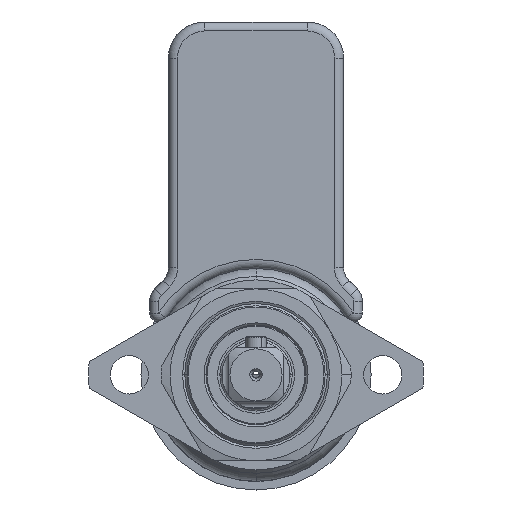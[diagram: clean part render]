
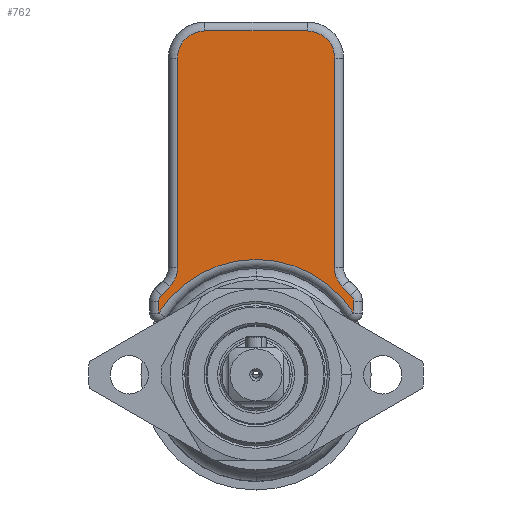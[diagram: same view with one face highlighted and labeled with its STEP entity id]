
A CAD part, left-side view. The second image highlights one B-rep face of the part: STEP entity #762.
In plain terms, the highlighted planar face has unit normal (-1, 0, 0).
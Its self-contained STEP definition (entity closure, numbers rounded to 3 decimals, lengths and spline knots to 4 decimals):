
#762 = ADVANCED_FACE ( 'NONE', ( #12818 ), #19718, .T. ) ;
#9960 = EDGE_CURVE ( 'NONE', #15178, #15571, #33150, .T. ) ;
#9964 = EDGE_CURVE ( 'NONE', #15184, #15026, #33154, .T. ) ;
#9966 = EDGE_CURVE ( 'NONE', #15176, #15184, #33156, .T. ) ;
#9970 = EDGE_CURVE ( 'NONE', #15185, #15176, #33162, .T. ) ;
#9971 = EDGE_CURVE ( 'NONE', #15187, #15185, #33164, .T. ) ;
#9972 = EDGE_CURVE ( 'NONE', #15504, #15375, #33160, .T. ) ;
#9975 = EDGE_CURVE ( 'NONE', #15026, #15178, #33163, .T. ) ;
#9976 = EDGE_CURVE ( 'NONE', #15375, #15093, #33169, .T. ) ;
#9978 = EDGE_CURVE ( 'NONE', #15011, #15504, #33170, .T. ) ;
#9982 = EDGE_CURVE ( 'NONE', #15362, #15339, #33178, .T. ) ;
#9986 = EDGE_CURVE ( 'NONE', #15571, #15012, #33177, .T. ) ;
#9993 = EDGE_CURVE ( 'NONE', #15093, #15187, #33191, .T. ) ;
#10008 = EDGE_CURVE ( 'NONE', #15012, #15362, #33207, .T. ) ;
#10053 = EDGE_CURVE ( 'NONE', #15339, #15011, #35441, .T. ) ;
#12114 = EDGE_LOOP ( 'NONE', ( #31097, #31079, #31104, #31095, #31090, #31100, #31108, #31099, #31140, #31139, #31078, #31138, #31137, #31136 ) ) ;
#12818 = FACE_OUTER_BOUND ( 'NONE', #12114, .T. ) ;
#15011 = VERTEX_POINT ( 'NONE', #38839 ) ;
#15012 = VERTEX_POINT ( 'NONE', #38840 ) ;
#15026 = VERTEX_POINT ( 'NONE', #38854 ) ;
#15093 = VERTEX_POINT ( 'NONE', #38921 ) ;
#15176 = VERTEX_POINT ( 'NONE', #39004 ) ;
#15178 = VERTEX_POINT ( 'NONE', #39006 ) ;
#15184 = VERTEX_POINT ( 'NONE', #39012 ) ;
#15185 = VERTEX_POINT ( 'NONE', #39013 ) ;
#15187 = VERTEX_POINT ( 'NONE', #39015 ) ;
#15339 = VERTEX_POINT ( 'NONE', #39167 ) ;
#15362 = VERTEX_POINT ( 'NONE', #39190 ) ;
#15375 = VERTEX_POINT ( 'NONE', #39203 ) ;
#15504 = VERTEX_POINT ( 'NONE', #39332 ) ;
#15571 = VERTEX_POINT ( 'NONE', #39399 ) ;
#17668 = AXIS2_PLACEMENT_3D ( 'NONE', #19716, #19724, #19726 ) ;
#19716 = CARTESIAN_POINT ( 'NONE',  ( -3.1045, 0.61, 0.5431 ) ) ;
#19718 = PLANE ( 'NONE',  #17668 ) ;
#19724 = DIRECTION ( 'NONE',  ( -1., 0., 0. ) ) ;
#19726 = DIRECTION ( 'NONE',  ( 0., 1., 0. ) ) ;
#22584 = AXIS2_PLACEMENT_3D ( 'NONE', #34475, #34476, #34477 ) ;
#22588 = AXIS2_PLACEMENT_3D ( 'NONE', #34489, #34490, #34491 ) ;
#22590 = AXIS2_PLACEMENT_3D ( 'NONE', #34529, #34530, #34531 ) ;
#22591 = AXIS2_PLACEMENT_3D ( 'NONE', #34534, #34535, #34536 ) ;
#22599 = AXIS2_PLACEMENT_3D ( 'NONE', #34596, #34597, #34598 ) ;
#22606 = AXIS2_PLACEMENT_3D ( 'NONE', #34675, #34676, #34677 ) ;
#22621 = AXIS2_PLACEMENT_3D ( 'NONE', #34808, #34809, #34810 ) ;
#31078 = ORIENTED_EDGE ( 'NONE', *, *, #9966, .T. ) ;
#31079 = ORIENTED_EDGE ( 'NONE', *, *, #10008, .T. ) ;
#31090 = ORIENTED_EDGE ( 'NONE', *, *, #9978, .T. ) ;
#31095 = ORIENTED_EDGE ( 'NONE', *, *, #10053, .T. ) ;
#31097 = ORIENTED_EDGE ( 'NONE', *, *, #9986, .T. ) ;
#31099 = ORIENTED_EDGE ( 'NONE', *, *, #9993, .T. ) ;
#31100 = ORIENTED_EDGE ( 'NONE', *, *, #9972, .T. ) ;
#31104 = ORIENTED_EDGE ( 'NONE', *, *, #9982, .T. ) ;
#31108 = ORIENTED_EDGE ( 'NONE', *, *, #9976, .T. ) ;
#31136 = ORIENTED_EDGE ( 'NONE', *, *, #9960, .T. ) ;
#31137 = ORIENTED_EDGE ( 'NONE', *, *, #9975, .T. ) ;
#31138 = ORIENTED_EDGE ( 'NONE', *, *, #9964, .T. ) ;
#31139 = ORIENTED_EDGE ( 'NONE', *, *, #9970, .T. ) ;
#31140 = ORIENTED_EDGE ( 'NONE', *, *, #9971, .T. ) ;
#33150 = CIRCLE ( 'NONE', #22584, 0.188 ) ;
#33154 = CIRCLE ( 'NONE', #22588, 0.188 ) ;
#33156 = LINE ( 'NONE', #34508, #33157 ) ;
#33157 = VECTOR ( 'NONE', #34509, 39.3701 ) ;
#33160 = CIRCLE ( 'NONE', #22591, 0.797 ) ;
#33162 = CIRCLE ( 'NONE', #22590, 0.187 ) ;
#33163 = LINE ( 'NONE', #34539, #33168 ) ;
#33164 = LINE ( 'NONE', #34515, #33165 ) ;
#33165 = VECTOR ( 'NONE', #34511, 39.3701 ) ;
#33168 = VECTOR ( 'NONE', #34542, 39.3701 ) ;
#33169 = LINE ( 'NONE', #34543, #33172 ) ;
#33170 = LINE ( 'NONE', #34538, #33176 ) ;
#33172 = VECTOR ( 'NONE', #34544, 39.3701 ) ;
#33176 = VECTOR ( 'NONE', #34548, 39.3701 ) ;
#33177 = LINE ( 'NONE', #34577, #33186 ) ;
#33178 = LINE ( 'NONE', #34566, #33180 ) ;
#33180 = VECTOR ( 'NONE', #34561, 39.3701 ) ;
#33186 = VECTOR ( 'NONE', #34572, 39.3701 ) ;
#33191 = CIRCLE ( 'NONE', #22599, 0.063 ) ;
#33207 = CIRCLE ( 'NONE', #22606, 0.187 ) ;
#34475 = CARTESIAN_POINT ( 'NONE',  ( -3.1045, 0.355, 2.2248 ) ) ;
#34476 = DIRECTION ( 'NONE',  ( -1., 0., 0. ) ) ;
#34477 = DIRECTION ( 'NONE',  ( 0., 1., 0. ) ) ;
#34489 = CARTESIAN_POINT ( 'NONE',  ( -3.1045, -0.355, 2.2248 ) ) ;
#34490 = DIRECTION ( 'NONE',  ( -1., 0., 0. ) ) ;
#34491 = DIRECTION ( 'NONE',  ( 0., 1., 0. ) ) ;
#34508 = CARTESIAN_POINT ( 'NONE',  ( -3.1045, -0.543, 0.5431 ) ) ;
#34509 = DIRECTION ( 'NONE',  ( 0., 0., 1. ) ) ;
#34511 = DIRECTION ( 'NONE',  ( 0., 0.707, 0.707 ) ) ;
#34515 = CARTESIAN_POINT ( 'NONE',  ( -3.1045, -0.0445, 1.1976 ) ) ;
#34529 = CARTESIAN_POINT ( 'NONE',  ( -3.1045, -0.73, 0.7766 ) ) ;
#34530 = DIRECTION ( 'NONE',  ( 1., 0., 0. ) ) ;
#34531 = DIRECTION ( 'NONE',  ( 0., 1., 0. ) ) ;
#34534 = CARTESIAN_POINT ( 'NONE',  ( -3.1045, 0., 0.0378 ) ) ;
#34535 = DIRECTION ( 'NONE',  ( 1., 0., 0. ) ) ;
#34536 = DIRECTION ( 'NONE',  ( 0., 1., 0. ) ) ;
#34538 = CARTESIAN_POINT ( 'NONE',  ( -3.1045, 0.673, 0.5431 ) ) ;
#34539 = CARTESIAN_POINT ( 'NONE',  ( -3.1045, 0.61, 2.4128 ) ) ;
#34542 = DIRECTION ( 'NONE',  ( 0., 1., 0. ) ) ;
#34543 = CARTESIAN_POINT ( 'NONE',  ( -3.1045, -0.673, 0.5431 ) ) ;
#34544 = DIRECTION ( 'NONE',  ( 0., 0., 1. ) ) ;
#34548 = DIRECTION ( 'NONE',  ( 0., 0., -1. ) ) ;
#34561 = DIRECTION ( 'NONE',  ( 0., 0.707, -0.707 ) ) ;
#34566 = CARTESIAN_POINT ( 'NONE',  ( -3.1045, 0.6545, 0.5876 ) ) ;
#34572 = DIRECTION ( 'NONE',  ( 0., 0., -1. ) ) ;
#34577 = CARTESIAN_POINT ( 'NONE',  ( -3.1045, 0.543, 0.5431 ) ) ;
#34596 = CARTESIAN_POINT ( 'NONE',  ( -3.1045, -0.61, 0.5431 ) ) ;
#34597 = DIRECTION ( 'NONE',  ( -1., 0., 0. ) ) ;
#34598 = DIRECTION ( 'NONE',  ( 0., 1., 0. ) ) ;
#34675 = CARTESIAN_POINT ( 'NONE',  ( -3.1045, 0.73, 0.7766 ) ) ;
#34676 = DIRECTION ( 'NONE',  ( 1., 0., 0. ) ) ;
#34677 = DIRECTION ( 'NONE',  ( 0., 1., 0. ) ) ;
#34808 = CARTESIAN_POINT ( 'NONE',  ( -3.1045, 0.61, 0.5431 ) ) ;
#34809 = DIRECTION ( 'NONE',  ( -1., 0., 0. ) ) ;
#34810 = DIRECTION ( 'NONE',  ( 0., 1., 0. ) ) ;
#35441 = CIRCLE ( 'NONE', #22621, 0.063 ) ;
#38839 = CARTESIAN_POINT ( 'NONE',  ( -3.1045, 0.673, 0.5431 ) ) ;
#38840 = CARTESIAN_POINT ( 'NONE',  ( -3.1045, 0.543, 0.7766 ) ) ;
#38854 = CARTESIAN_POINT ( 'NONE',  ( -3.1045, -0.355, 2.4128 ) ) ;
#38921 = CARTESIAN_POINT ( 'NONE',  ( -3.1045, -0.673, 0.5431 ) ) ;
#39004 = CARTESIAN_POINT ( 'NONE',  ( -3.1045, -0.543, 0.7766 ) ) ;
#39006 = CARTESIAN_POINT ( 'NONE',  ( -3.1045, 0.355, 2.4128 ) ) ;
#39012 = CARTESIAN_POINT ( 'NONE',  ( -3.1045, -0.543, 2.2248 ) ) ;
#39013 = CARTESIAN_POINT ( 'NONE',  ( -3.1045, -0.5978, 0.6444 ) ) ;
#39015 = CARTESIAN_POINT ( 'NONE',  ( -3.1045, -0.6545, 0.5876 ) ) ;
#39167 = CARTESIAN_POINT ( 'NONE',  ( -3.1045, 0.6545, 0.5876 ) ) ;
#39190 = CARTESIAN_POINT ( 'NONE',  ( -3.1045, 0.5978, 0.6444 ) ) ;
#39203 = CARTESIAN_POINT ( 'NONE',  ( -3.1045, -0.673, 0.4648 ) ) ;
#39332 = CARTESIAN_POINT ( 'NONE',  ( -3.1045, 0.673, 0.4648 ) ) ;
#39399 = CARTESIAN_POINT ( 'NONE',  ( -3.1045, 0.543, 2.2248 ) ) ;
